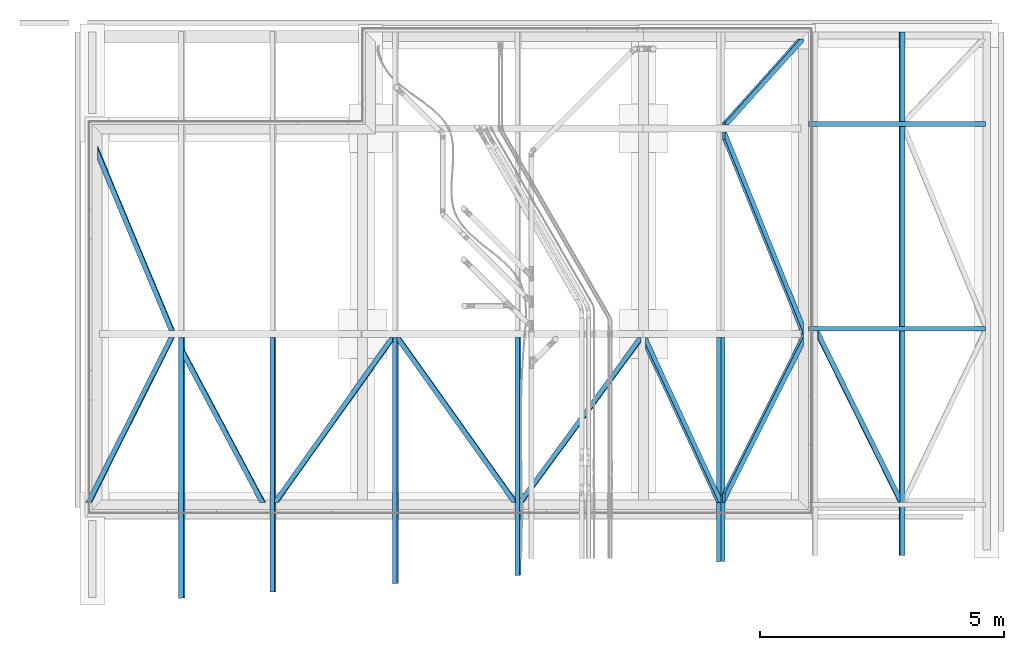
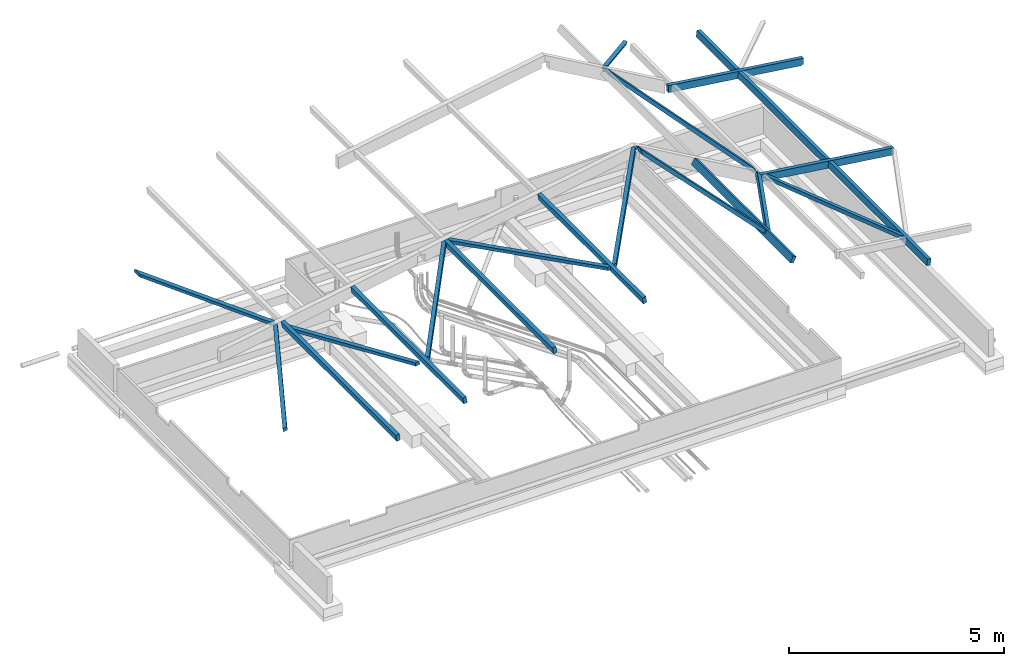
# One storey, part 2 of 18: 12 beams, 9 members.
"""IFC4 building model written with IfcOpenShell, lengths in centimetres."""

from ifc_helpers import new_model, entity, si_unit, converted_unit, derived_unit, direction, frame, origin, place, context, subcontext, project, spatial, indexed_curve, outline, extrude, polygons, source, transform, mapped, material, type_object, type_shapes, element, save


model = new_model("IFC4")

# Units and contexts
model_context = context("Model", 3, precision=0.001, world=origin(), true_north=direction((6.123233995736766e-17, 1.0)))
body_context = subcontext(model_context, "Body", "Model", "MODEL_VIEW")
ifc_project = project(units=[si_unit("LENGTHUNIT", "METRE", prefix="CENTI"), si_unit("AREAUNIT", "SQUARE_METRE"), converted_unit("PLANEANGLEUNIT", "DEGREE", entity("IfcPlaneAngleMeasure", 0.017453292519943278), si_unit("PLANEANGLEUNIT", "RADIAN"), dimensions=[0, 0, 0, 0, 0, 0, 0]), si_unit("VOLUMEUNIT", "CUBIC_METRE"), derived_unit("THERMALTRANSMITTANCEUNIT", [(si_unit("MASSUNIT", "GRAM", prefix="KILO"), 1), (si_unit("THERMODYNAMICTEMPERATUREUNIT", "KELVIN"), -1), (si_unit("TIMEUNIT", "SECOND"), -3)])], contexts=[model_context])

# Site, building, storey
site_placement = place(None, frame((-0.003347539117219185, 0.0, 0.0)))
site = spatial("IfcSite", under=ifc_project, at=site_placement, Name="Default", CompositionType="ELEMENT")
building_placement = place(site_placement, origin())
building = spatial("IfcBuilding", under=site, at=building_placement, CompositionType="ELEMENT")
storey_placement = place(building_placement, frame((0.0, 0.0, -30.0)))
storey = spatial("IfcBuildingStorey", under=building, at=storey_placement, Name="Fondation B.O.", CompositionType="ELEMENT", Elevation=-30.0)

# Beam
ifc_material_1 = material(Name="BLC - GL24h", Category="Bois")
beam_type_1 = type_object("IfcBeamType", Name="Poutre - Lamellé-collé:10x18", PredefinedType="BEAM", material=ifc_material_1)
shared_shape_1 = source(origin(), body_context, "Body", "Tessellation", [
    polygons([(17.639249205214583, 460.3035868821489, 15.606250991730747), (8.670139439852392, 460.3035868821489, 3.979039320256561e-13), (2.7284841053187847e-12, 460.3035868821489, 4.982838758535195), (8.96910976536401, 460.3035868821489, 20.589089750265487), (8.670139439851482, 0.5879283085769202, 0.0), (17.639249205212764, 1.196130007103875, 15.606250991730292), (9.094947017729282e-13, -4.547473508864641e-13, 4.982838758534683), (8.9691097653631, 0.6082016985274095, 20.589089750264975)], [[[1, 2, 3, 4]], [[5, 2, 1, 6]], [[7, 3, 2, 5]], [[8, 4, 3, 7]], [[6, 1, 4, 8]], [[6, 8, 7, 5]]], closed=True),
])
type_shapes(beam_type_1, [shared_shape_1])
beam_1_placement = place(storey_placement, frame((-5508.288411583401, -2780.1849936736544, 469.95446520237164)))
element("IfcBeam", 1, at=beam_1_placement, inside=storey, type_object=beam_type_1, material=ifc_material_1, Name="Poutre - Lamellé-collé:10x18", ObjectType="Poutre - Lamellé-collé:10x18", PredefinedType="BEAM", context=body_context, shape_type="MappedRepresentation", body=[
    mapped(shared_shape_1, transform((0.0, 0.0, 0.0), scale=1.0)),
])

# Members
member_type_1 = type_object("IfcMemberType", Name="Poutre - Lamellé-collé:10x18", PredefinedType="PURLIN", material=ifc_material_1)
shared_shape_2 = source(origin(), body_context, "Body", "Tessellation", [
    polygons([(9.094947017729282e-13, 488.3175266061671, -1.7265254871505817), (9.849827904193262, 488.3175266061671, -1.1368683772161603e-13), (12.957573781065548, 488.3175266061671, -17.72969022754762), (3.107745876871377, 488.3175266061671, -19.45621571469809), (0.0, -4.547473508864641e-13, -1.726525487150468), (9.849827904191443, 0.667923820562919, 0.0), (12.95757378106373, 0.8786622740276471, -17.729690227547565), (3.1077458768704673, 0.21073845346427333, -19.456215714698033)], [[[1, 2, 3, 4]], [[2, 1, 5, 6]], [[3, 2, 6, 7]], [[4, 3, 7, 8]], [[1, 4, 8, 5]], [[6, 5, 8, 7]]], closed=True),
])
type_shapes(member_type_1, [shared_shape_2])
member_1_placement = place(storey_placement, frame((-5921.649265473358, -2808.2152865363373, 537.4808931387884)))
element("IfcMember", 2, at=member_1_placement, inside=storey, type_object=member_type_1, material=ifc_material_1, Name="Poutre - Lamellé-collé:10x18", ObjectType="Poutre - Lamellé-collé:10x18", PredefinedType="PURLIN", context=body_context, shape_type="MappedRepresentation", body=[
    mapped(shared_shape_2, transform((0.0, 0.0, 0.0), scale=1.0)),
])
member_type_2 = type_object("IfcMemberType", Name="Poutre - Lamellé-collé:10x18", PredefinedType="PURLIN", material=ifc_material_1)
shared_shape_3 = source(origin(), body_context, "Body", "Tessellation", [
    polygons([(9.094947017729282e-13, 505.28699247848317, -1.7265254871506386), (9.849827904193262, 505.28699247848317, -1.7053025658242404e-13), (12.957573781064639, 505.28699247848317, -17.72969022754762), (3.107745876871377, 505.28699247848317, -19.45621571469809), (0.0, 4.547473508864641e-13, -1.726525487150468), (9.849827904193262, 0.6679238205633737, 0.0), (12.95757378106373, 0.8786622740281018, -17.729690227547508), (3.107745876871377, 0.21073845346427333, -19.456215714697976)], [[[1, 2, 3, 4]], [[2, 1, 5, 6]], [[3, 2, 6, 7]], [[4, 3, 7, 8]], [[1, 4, 8, 5]], [[6, 5, 8, 7]]], closed=True),
])
type_shapes(member_type_2, [shared_shape_3])
member_2_placement = place(storey_placement, frame((-6172.820398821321, -2825.2473793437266, 493.4544017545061)))
element("IfcMember", 3, at=member_2_placement, inside=storey, type_object=member_type_2, material=ifc_material_1, Name="Poutre - Lamellé-collé:10x18", ObjectType="Poutre - Lamellé-collé:10x18", PredefinedType="PURLIN", context=body_context, shape_type="MappedRepresentation", body=[
    mapped(shared_shape_3, transform((0.0, 0.0, 0.0), scale=1.0)),
])
member_type_3 = type_object("IfcMemberType", Name="Poutre - Lamellé-collé:10x18", PredefinedType="PURLIN", material=ifc_material_1)
shared_shape_4 = source(origin(), body_context, "Body", "Tessellation", [
    polygons([(9.094947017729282e-13, 522.3980492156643, -1.7265254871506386), (9.849827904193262, 522.3980492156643, -1.7053025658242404e-13), (12.957573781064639, 522.3980492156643, -17.729690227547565), (3.107745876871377, 522.3980492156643, -19.456215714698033), (0.0, 0.0, -1.726525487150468), (9.849827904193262, 0.6679238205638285, 0.0), (12.95757378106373, 0.8786622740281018, -17.729690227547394), (3.107745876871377, 0.21073845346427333, -19.456215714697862)], [[[1, 2, 3, 4]], [[2, 1, 5, 6]], [[3, 2, 6, 7]], [[4, 3, 7, 8]], [[1, 4, 8, 5]], [[6, 5, 8, 7]]], closed=True),
])
type_shapes(member_type_3, [shared_shape_4])
member_3_placement = place(storey_placement, frame((-6423.991923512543, -2842.2794986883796, 449.4278417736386)))
element("IfcMember", 4, at=member_3_placement, inside=storey, type_object=member_type_3, material=ifc_material_1, Name="Poutre - Lamellé-collé:10x18", ObjectType="Poutre - Lamellé-collé:10x18", PredefinedType="PURLIN", context=body_context, shape_type="MappedRepresentation", body=[
    mapped(shared_shape_4, transform((0.0, 0.0, 0.0), scale=1.0)),
])
member_type_4 = type_object("IfcMemberType", Name="Poutre - Lamellé-collé:10x18", PredefinedType="PURLIN", material=ifc_material_1)
shared_shape_5 = source(origin(), body_context, "Body", "Tessellation", [
    polygons([(9.094947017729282e-13, 535.0465405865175, -1.7265254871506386), (9.849827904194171, 535.0465405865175, -1.7053025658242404e-13), (12.957573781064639, 535.0465405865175, -17.729690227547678), (3.1077458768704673, 535.0465405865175, -19.456215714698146), (9.094947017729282e-13, 4.547473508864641e-13, -1.726525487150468), (9.849827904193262, 0.6679238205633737, 0.0), (12.95757378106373, 0.8786622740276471, -17.72969022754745), (3.1077458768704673, 0.21073845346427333, -19.45621571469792)], [[[1, 2, 3, 4]], [[2, 1, 5, 6]], [[3, 2, 6, 7]], [[4, 3, 7, 8]], [[1, 4, 8, 5]], [[6, 5, 8, 7]]], closed=True),
])
type_shapes(member_type_4, [shared_shape_5])
member_4_placement = place(storey_placement, frame((-6611.135647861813, -2854.9698474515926, 416.6243843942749)))
element("IfcMember", 5, at=member_4_placement, inside=storey, type_object=member_type_4, material=ifc_material_1, Name="Poutre - Lamellé-collé:10x18", ObjectType="Poutre - Lamellé-collé:10x18", PredefinedType="PURLIN", context=body_context, shape_type="MappedRepresentation", body=[
    mapped(shared_shape_5, transform((0.0, 0.0, 0.0), scale=1.0)),
])

# Beams
ifc_material_2 = material(Name="BM - C24", Category="Bois")
beam_type_2 = type_object("IfcBeamType", Name="Poutre - Lamellé-collé:10x10", PredefinedType="BEAM", material=ifc_material_2)
shared_shape_6 = source(origin(), body_context, "Body", "Tessellation", [
    polygons([(158.70810860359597, 175.99999999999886, -88.34785623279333), (153.72526984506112, 175.99999999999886, -97.0179956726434), (9.094947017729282e-13, 4.77926182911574, -8.670139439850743), (4.982838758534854, 4.77926182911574, -1.7053025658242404e-13), (165.54534867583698, 175.26368573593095, -103.81114442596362), (8.190242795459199, 2.2737367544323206e-13, -13.377175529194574), (9.094947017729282e-13, 6.821210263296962e-13, -8.670139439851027), (165.5453486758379, 175.99999999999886, -103.81114442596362), (165.54534867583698, 169.85012428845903, -92.56071619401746), (166.03848493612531, 170.2630103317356, -92.5607161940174), (13.173081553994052, 2.2737367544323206e-13, -4.707036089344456), (166.03848493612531, 175.99999999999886, -92.56071619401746), (4.982838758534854, 6.821210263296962e-13, -2.8421709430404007e-13), (165.5453486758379, 175.99999999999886, -92.56071619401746)], [[[1, 2, 3, 4]], [[5, 6, 7, 3, 2, 8]], [[6, 5, 9, 10, 11]], [[11, 10, 12, 1, 4, 13]], [[2, 1, 12, 14, 8]], [[6, 11, 13, 7]], [[9, 14, 12, 10]], [[14, 9, 5, 8]], [[4, 3, 7, 13]]], closed=True),
])
type_shapes(beam_type_2, [shared_shape_6])
beam_2_placement = place(storey_placement, frame((-5495.632001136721, -1883.87588491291, 485.5607161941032)))
element("IfcBeam", 6, at=beam_2_placement, inside=storey, type_object=beam_type_2, material=ifc_material_2, Name="Poutre - Lamellé-collé:10x10", ObjectType="Poutre - Lamellé-collé:10x10", PredefinedType="BEAM", context=body_context, shape_type="MappedRepresentation", body=[
    mapped(shared_shape_6, transform((0.0, 0.0, 0.0), scale=1.0)),
])
beam_type_3 = type_object("IfcBeamType", Name="Poutre - Lamellé-collé:10x10", PredefinedType="BEAM", material=ifc_material_2)
shared_shape_7 = source(origin(), body_context, "Body", "Tessellation", [
    polygons([(171.83357190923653, 12.021906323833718, -96.17463759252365), (172.32670816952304, 11.105009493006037, -96.17463759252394), (11.271061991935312, 409.46647785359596, -3.613921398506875), (6.288223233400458, 409.46647785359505, -12.284060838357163), (171.83357190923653, 0.0, -107.42506582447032), (9.56644041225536, 425.02002037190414, -14.168093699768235), (171.83357190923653, 23.662015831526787, -107.42506582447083), (6.288223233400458, 424.9735628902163, -12.284060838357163), (0.0187825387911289, 424.97356289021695, -8.680934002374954), (0.0, 425.02002037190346, -8.670139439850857), (172.32670816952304, 34.767025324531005, -96.17463759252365), (14.549279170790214, 425.02002037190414, -5.497954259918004), (4.982838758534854, 425.02002037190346, -3.410605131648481e-13), (5.001621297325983, 424.97356289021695, -0.010794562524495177), (11.271061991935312, 424.9735628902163, -3.6139213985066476), (171.83357190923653, 35.68392215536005, -96.17463759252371)], [[[1, 2, 3, 4, 5]], [[6, 7, 5, 4, 8, 9, 10]], [[11, 12, 13, 14, 15, 3, 2]], [[12, 11, 16, 7, 6]], [[13, 10, 9, 14]], [[13, 12, 6, 10]], [[1, 16, 11, 2]], [[16, 1, 5, 7]], [[8, 15, 14, 9]], [[15, 8, 4, 3]]], closed=True),
])
type_shapes(beam_type_3, [shared_shape_7])
beam_3_placement = place(storey_placement, frame((-5501.920224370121, -2322.8959052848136, 489.17463759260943)))
element("IfcBeam", 7, at=beam_3_placement, inside=storey, type_object=beam_type_3, material=ifc_material_2, Name="Poutre - Lamellé-collé:10x10", ObjectType="Poutre - Lamellé-collé:10x10", PredefinedType="BEAM", context=body_context, shape_type="MappedRepresentation", body=[
    mapped(shared_shape_7, transform((0.0, 0.0, 0.0), scale=1.0)),
])
beam_type_4 = type_object("IfcBeamType", Name="Poutre - Lamellé-collé:10x10", PredefinedType="BEAM", material=ifc_material_2)
shared_shape_8 = source(origin(), body_context, "Body", "Tessellation", [
    polygons([(166.03848493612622, 340.5682516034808, -92.56071619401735), (165.54534867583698, 339.8277028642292, -92.56071619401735), (165.54534867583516, 349.53741858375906, -103.81114442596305), (-9.094947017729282e-13, 18.824219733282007, -8.670139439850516), (4.982838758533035, 18.824219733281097, -1.1368683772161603e-13), (0.5885611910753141, -4.547473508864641e-13, -9.008392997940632), (5.571399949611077, -4.547473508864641e-13, -0.33825355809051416), (4.982838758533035, -4.547473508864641e-13, -3.979039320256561e-13), (-9.094947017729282e-13, -4.547473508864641e-13, -8.670139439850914), (166.0384849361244, 320.5682516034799, -92.56071619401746), (165.54534867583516, 329.5374185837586, -103.81114442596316), (165.54534867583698, 319.82770286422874, -92.56071619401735)], [[[1, 2, 3, 4, 5]], [[6, 7, 8, 9]], [[7, 10, 1, 5, 8]], [[7, 6, 11, 12, 10]], [[11, 6, 9, 4, 3]], [[12, 2, 1, 10]], [[2, 12, 11, 3]], [[5, 4, 9, 8]]], closed=True),
])
type_shapes(beam_type_4, [shared_shape_8])
beam_4_placement = place(storey_placement, frame((-5495.632001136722, -2657.875884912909, 485.56071619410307)))
element("IfcBeam", 8, at=beam_4_placement, inside=storey, type_object=beam_type_4, material=ifc_material_2, Name="Poutre - Lamellé-collé:10x10", ObjectType="Poutre - Lamellé-collé:10x10", PredefinedType="BEAM", context=body_context, shape_type="MappedRepresentation", body=[
    mapped(shared_shape_8, transform((0.0, 0.0, 0.0), scale=1.0)),
])
beam_type_5 = type_object("IfcBeamType", Name="Poutre - Lamellé-collé:10x10", PredefinedType="BEAM", material=ifc_material_2)
shared_shape_9 = source(origin(), body_context, "Body", "Tessellation", [
    polygons([(156.23313282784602, 12.132817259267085, -98.45929623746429), (7.230301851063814, 334.0518207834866, -12.8254853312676), (7.230301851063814, 337.9590809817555, -8.639310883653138), (5.421794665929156, 337.9590809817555, -11.78611338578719), (5.402854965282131, 338.0000000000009, -11.775228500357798), (10.385693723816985, 338.0000000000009, -3.10508906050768), (161.21597158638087, 12.13281725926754, -89.789156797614), (9.094947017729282e-13, 337.9590809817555, -8.670139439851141), (0.06645527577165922, 338.0000000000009, -8.708332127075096), (157.00346501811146, 4.547473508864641e-13, -87.36817601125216), (152.0206262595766, 4.547473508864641e-13, -96.03831545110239), (156.23313282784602, 4.547473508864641e-13, -98.45929623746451), (161.21597158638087, 4.547473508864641e-13, -89.78915679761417), (4.982838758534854, 337.9590809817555, -1.0231815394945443e-12), (5.049294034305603, 338.0000000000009, -0.03819268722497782), (7.230301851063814, 337.9590809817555, -1.2916454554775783), (7.2303018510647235, 323.5832978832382, -1.291645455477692), (7.2303018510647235, 312.81792867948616, -12.825485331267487)], [[[1, 2, 3, 4, 5, 6, 7]], [[4, 8, 9, 5]], [[10, 11, 12, 13]], [[8, 14, 15, 9]], [[10, 13, 7, 6, 15, 14, 16, 17]], [[12, 11, 18, 2, 1]], [[11, 10, 17, 18]], [[7, 13, 12, 1]], [[3, 16, 14, 8, 4]], [[16, 3, 2, 18, 17]], [[6, 5, 9, 15]]], closed=True),
])
type_shapes(beam_type_5, [shared_shape_9])
beam_5_placement = place(storey_placement, frame((-5660.535273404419, -2657.87588491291, 580.3327117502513)))
element("IfcBeam", 9, at=beam_5_placement, inside=storey, type_object=beam_type_5, material=ifc_material_2, Name="Poutre - Lamellé-collé:10x10", ObjectType="Poutre - Lamellé-collé:10x10", PredefinedType="BEAM", context=body_context, shape_type="MappedRepresentation", body=[
    mapped(shared_shape_9, transform((0.0, 0.0, 0.0), scale=1.0)),
])
beam_type_6 = type_object("IfcBeamType", Name="Poutre - Lamellé-collé:10x10", PredefinedType="BEAM", material=ifc_material_2)
shared_shape_10 = source(origin(), body_context, "Body", "Tessellation", [
    polygons([(252.45525330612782, 337.9590809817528, 43.94894440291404), (252.4010468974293, 337.99999999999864, 43.93944284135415), (250.67452141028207, 337.99999999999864, 53.78927074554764), (250.7287278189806, 337.95908098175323, 53.79877230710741), (6.944088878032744, 0.0, 11.067021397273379), (8.670614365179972, 0.0, 1.217193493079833), (248.4944660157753, 327.46170469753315, 43.25467844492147), (248.4944660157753, 329.81914735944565, 53.40714008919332), (248.4944660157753, 337.95908098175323, 43.25467844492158), (1.726525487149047, 0.0, 1.1368683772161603e-13), (1.726525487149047, 7.2778735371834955, 2.2737367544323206e-13), (243.9382194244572, 337.9999999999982, 42.45603749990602), (242.21169393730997, 337.9999999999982, 52.30586540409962), (0.0, 7.277873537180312, 9.849827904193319), (-9.094947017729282e-13, 0.0, 9.849827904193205), (248.4944660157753, 337.95908098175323, 53.40714008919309)], [[[1, 2, 3, 4]], [[5, 6, 7, 8]], [[2, 1, 9, 7, 6, 10, 11, 12]], [[13, 12, 11, 14]], [[4, 3, 13, 14, 15, 5, 8, 16]], [[6, 5, 15, 10]], [[3, 2, 12, 13]], [[16, 9, 1, 4]], [[9, 16, 8, 7]], [[11, 10, 15, 14]]], closed=True),
])
type_shapes(beam_type_6, [shared_shape_10])
beam_6_placement = place(storey_placement, frame((-5911.7994375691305, -2657.8758849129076, 527.6310652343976)))
element("IfcBeam", 10, at=beam_6_placement, inside=storey, type_object=beam_type_6, material=ifc_material_2, Name="Poutre - Lamellé-collé:10x10", ObjectType="Poutre - Lamellé-collé:10x10", PredefinedType="BEAM", context=body_context, shape_type="MappedRepresentation", body=[
    mapped(shared_shape_10, transform((0.0, 0.0, 0.0), scale=1.0)),
])

# Members
member_type_5 = type_object("IfcMemberType", Name="Poutre - Lamellé-collé:10x10", PredefinedType="BRACE", material=ifc_material_2)
shared_shape_11 = source(origin(), body_context, "Body", "Tessellation", [
    polygons([(166.93928402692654, 4.547473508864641e-13, 39.111753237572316), (155.75312088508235, 4.547473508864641e-13, 37.150988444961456), (157.4796463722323, 4.547473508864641e-13, 27.30116054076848), (168.6658095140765, 4.547473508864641e-13, 29.261925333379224), (0.0, 293.7633138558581, 9.849827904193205), (1.726525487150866, 293.7633138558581, 1.7053025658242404e-13), (9.094947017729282e-13, 314.8613460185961, 9.849827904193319), (1.726525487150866, 314.86134601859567, 2.8421709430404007e-13)], [[[1, 2, 3, 4]], [[3, 2, 5, 6]], [[2, 1, 7, 5]], [[1, 4, 8, 7]], [[4, 3, 6, 8]], [[5, 7, 8, 6]]], closed=True),
])
type_shapes(member_type_5, [shared_shape_11])
member_5_placement = place(storey_placement, frame((-6601.2858199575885, -2657.8758849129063, 406.7745564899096)))
element("IfcMember", 11, at=member_5_placement, inside=storey, type_object=member_type_5, material=ifc_material_2, Name="Poutre - Lamellé-collé:10x10", ObjectType="Poutre - Lamellé-collé:10x10", PredefinedType="BRACE", context=body_context, shape_type="MappedRepresentation", body=[
    mapped(shared_shape_11, transform((0.0, 0.0, 0.0), scale=1.0)),
])
member_type_6 = type_object("IfcMemberType", Name="Poutre - Lamellé-collé:10x10", PredefinedType="BRACE", material=ifc_material_2)
shared_shape_12 = source(origin(), body_context, "Body", "Tessellation", [
    polygons([(180.59494155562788, 337.8144497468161, 41.50538295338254), (182.32146704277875, 337.8144497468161, 31.655555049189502), (181.9627728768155, 337.9999999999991, 31.592681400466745), (180.23624738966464, 337.9999999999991, 41.442509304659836), (11.05472029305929, 0.0, 11.787552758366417), (12.781245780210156, 0.0, 1.9377248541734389), (1.7265254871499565, 0.0, 0.0), (171.35986956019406, 338.0, 29.734153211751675), (-9.094947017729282e-13, 0.0, 9.849827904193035), (169.6333440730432, 337.99999999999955, 39.58398111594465)], [[[1, 2, 3, 4]], [[2, 1, 5, 6]], [[2, 6, 7, 8, 3]], [[7, 9, 10, 8]], [[5, 1, 4, 10, 9]], [[5, 9, 7, 6]], [[4, 3, 8, 10]]], closed=True),
])
type_shapes(member_type_6, [shared_shape_12])
member_6_placement = place(storey_placement, frame((-6801.532217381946, -2657.875884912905, 371.67439918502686)))
element("IfcMember", 12, at=member_6_placement, inside=storey, type_object=member_type_6, material=ifc_material_2, Name="Poutre - Lamellé-collé:10x10", ObjectType="Poutre - Lamellé-collé:10x10", PredefinedType="BRACE", context=body_context, shape_type="MappedRepresentation", body=[
    mapped(shared_shape_12, transform((0.0, 0.0, 0.0), scale=1.0)),
])

# Beams
beam_type_7 = type_object("IfcBeamType", Name="Poutre - Lamellé-collé:10x10", PredefinedType="BEAM", material=ifc_material_2)
shared_shape_13 = source(origin(), body_context, "Body", "Tessellation", [
    polygons([(-9.094947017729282e-13, 377.0668210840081, 10.152461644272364), (-9.094947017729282e-13, 351.47377443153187, 10.152461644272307), (146.95132178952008, 9.094947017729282e-13, 35.91080025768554), (157.651784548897, 4.547473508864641e-13, 37.78642913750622), (-9.094947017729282e-13, 381.1962730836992, 2.8421709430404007e-13), (159.3783100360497, 4.547473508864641e-13, 27.93660123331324), (-9.094947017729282e-13, 355.60322643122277, 1.7053025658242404e-13), (148.67784727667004, 9.094947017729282e-13, 26.060972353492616)], [[[1, 2, 3, 4]], [[5, 1, 4, 6]], [[7, 5, 6, 8]], [[2, 7, 8, 3]], [[2, 1, 5, 7]], [[4, 3, 8, 6]]], closed=True),
])
type_shapes(beam_type_7, [shared_shape_13])
beam_7_placement = place(storey_placement, frame((-6778.086652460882, -2305.8758849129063, 375.48141749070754)))
element("IfcBeam", 13, at=beam_7_placement, inside=storey, type_object=beam_type_7, material=ifc_material_2, Name="Poutre - Lamellé-collé:10x10", ObjectType="Poutre - Lamellé-collé:10x10", PredefinedType="BEAM", context=body_context, shape_type="MappedRepresentation", body=[
    mapped(shared_shape_13, transform((0.0, 0.0, 0.0), scale=1.0)),
])
beam_type_8 = type_object("IfcBeamType", Name="Poutre - Lamellé-collé:10x10", PredefinedType="BEAM", material=ifc_material_2)
shared_shape_14 = source(origin(), body_context, "Body", "Tessellation", [
    polygons([(1.8416890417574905, 338.0000000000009, 0.020186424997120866), (1.726525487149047, 337.91549804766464, 2.2737367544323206e-13), (1.8189894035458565e-12, 337.91549804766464, 9.84982790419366), (0.11516355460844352, 338.0000000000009, 9.870014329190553), (1.587187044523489, 329.4979598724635, 10.128037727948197), (236.15136954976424, 0.0, 51.24358242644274), (242.90849248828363, 0.0, 52.42800362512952), (242.90849248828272, 7.579806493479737, 52.428003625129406), (7.687787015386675, 338.0000000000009, 11.197380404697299), (1.587187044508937, 337.9154980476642, 10.128037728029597), (9.414312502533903, 338.0000000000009, 1.3475525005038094), (244.63501797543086, 7.579806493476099, 42.578175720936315), (237.87789503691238, 0.0, 41.39375452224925), (3.313712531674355, 329.49795987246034, 0.2782098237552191), (3.3137125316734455, 337.9154980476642, 0.278209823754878), (244.63501797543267, 0.0, 42.57817572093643)], [[[1, 2, 3, 4]], [[5, 6, 7, 8, 9, 4, 3, 10]], [[11, 9, 8, 12]], [[13, 14, 15, 2, 1, 11, 12, 16]], [[13, 6, 5, 14]], [[6, 13, 16, 7]], [[15, 10, 3, 2]], [[10, 15, 14, 5]], [[1, 4, 9, 11]], [[8, 7, 16, 12]]], closed=True),
])
type_shapes(beam_type_8, [shared_shape_14])
beam_8_placement = place(storey_placement, frame((-6164.557757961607, -2657.8758849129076, 483.3263640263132)))
element("IfcBeam", 14, at=beam_8_placement, inside=storey, type_object=beam_type_8, material=ifc_material_2, Name="Poutre - Lamellé-collé:10x10", ObjectType="Poutre - Lamellé-collé:10x10", PredefinedType="BEAM", context=body_context, shape_type="MappedRepresentation", body=[
    mapped(shared_shape_14, transform((0.0, 0.0, 0.0), scale=1.0)),
])
beam_type_9 = type_object("IfcBeamType", Name="Poutre - Lamellé-collé:10x10", PredefinedType="BEAM", material=ifc_material_2)
shared_shape_15 = source(origin(), body_context, "Body", "Tessellation", [
    polygons([(244.7287777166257, 337.99999999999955, 42.59461038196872), (243.00225222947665, 337.99999999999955, 52.4444382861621), (243.1174097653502, 337.9154980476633, 52.464623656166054), (244.84393525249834, 337.9154980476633, 42.61479575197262), (6.676382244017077, -4.547473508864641e-13, 11.020096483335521), (8.402907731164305, -4.547473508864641e-13, 1.1702685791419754), (243.04822227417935, 329.59470166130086, 42.300034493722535), (241.3216967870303, 329.5947016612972, 52.149862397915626), (1.726525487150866, -4.547473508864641e-13, 5.684341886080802e-14), (1.726525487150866, 7.69312896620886, 0.0), (236.87884819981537, 337.99999999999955, 41.2186367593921), (243.04822227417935, 337.9154980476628, 42.30003449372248), (9.094947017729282e-13, 7.6931289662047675, 9.849827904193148), (235.15232271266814, 337.99999999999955, 51.068464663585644), (9.094947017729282e-13, 4.547473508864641e-13, 9.849827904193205), (241.32169678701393, 337.9154980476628, 52.149862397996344)], [[[1, 2, 3, 4]], [[5, 6, 7, 8]], [[6, 9, 10, 11, 1, 4, 12, 7]], [[11, 10, 13, 14]], [[15, 5, 8, 16, 3, 2, 14, 13]], [[6, 5, 15, 9]], [[10, 9, 15, 13]], [[2, 1, 11, 14]], [[16, 12, 4, 3]], [[12, 16, 8, 7]]], closed=True),
])
type_shapes(beam_type_9, [shared_shape_15])
beam_9_placement = place(storey_placement, frame((-6414.142095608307, -2657.8758849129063, 439.57801386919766)))
element("IfcBeam", 15, at=beam_9_placement, inside=storey, type_object=beam_type_9, material=ifc_material_2, Name="Poutre - Lamellé-collé:10x10", ObjectType="Poutre - Lamellé-collé:10x10", PredefinedType="BEAM", context=body_context, shape_type="MappedRepresentation", body=[
    mapped(shared_shape_15, transform((0.0, 0.0, 0.0), scale=1.0)),
])
beam_type_10 = type_object("IfcBeamType", Name="Poutre - Lamellé-collé:10x20", PredefinedType="BEAM", material=ifc_material_1)
shared_shape_16 = source(origin(), body_context, "Body", "SweptSolid", [
    extrude(outline(indexed_curve([(-243.8614628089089, -12.517621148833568), (122.1870567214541, -12.517621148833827), (124.49222117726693, 4.669685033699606), (119.0410312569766, 5.400799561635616), (119.32021302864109, 7.482378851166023), (-241.17905937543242, 7.482378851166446), (-243.8614628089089, -12.517621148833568)], self_intersect=False)), frame((-5078.853319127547, -1886.8758849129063, 295.1769839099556), z_axis=(0.0, 1.0, 0.0), x_axis=(0.9911254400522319, 0.0, -0.1329299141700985)), (0.0, 0.0, 1.0), 10.000000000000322),
])
type_shapes(beam_type_10, [shared_shape_16])
beam_10_placement = place(storey_placement, frame((0.0, 0.0, 30.0)))
element("IfcBeam", 16, at=beam_10_placement, inside=storey, type_object=beam_type_10, material=ifc_material_1, Name="Poutre - Lamellé-collé:10x20", ObjectType="Poutre - Lamellé-collé:10x20", PredefinedType="BEAM", context=body_context, shape_type="MappedRepresentation", body=[
    mapped(shared_shape_16, transform((0.0, 0.0, 0.0), scale=1.0)),
])
beam_type_11 = type_object("IfcBeamType", Name="Poutre - Lamellé-collé:10x20", PredefinedType="BEAM", material=ifc_material_1)
shared_shape_17 = source(origin(), body_context, "Body", "SweptSolid", [
    extrude(outline(indexed_curve([(-243.86146280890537, -12.51762114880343), (122.18705672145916, -12.517621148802), (124.49222117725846, 4.669685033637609), (119.04103125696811, 5.400799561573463), (119.32021302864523, 7.482378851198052), (-241.17905937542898, 7.482378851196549), (-243.86146280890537, -12.51762114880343)], self_intersect=False)), frame((-5078.853319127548, -2306.8758849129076, 295.1769839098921), z_axis=(0.0, 1.0, 0.0), x_axis=(0.9911254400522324, 0.0, -0.13292991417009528)), (0.0, 0.0, 1.0), 10.000000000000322),
])
type_shapes(beam_type_11, [shared_shape_17])
beam_11_placement = place(storey_placement, frame((0.0, 0.0, 30.0)))
element("IfcBeam", 17, at=beam_11_placement, inside=storey, type_object=beam_type_11, material=ifc_material_1, Name="Poutre - Lamellé-collé:10x20", ObjectType="Poutre - Lamellé-collé:10x20", PredefinedType="BEAM", context=body_context, shape_type="MappedRepresentation", body=[
    mapped(shared_shape_17, transform((0.0, 0.0, 0.0), scale=1.0)),
])

# Members
member_type_7 = type_object("IfcMemberType", Name="Poutre - Lamellé-collé:10x18", PredefinedType="PURLIN", material=ifc_material_1)
shared_shape_18 = source(origin(), body_context, "Body", "SweptSolid", [
    extrude(outline(indexed_curve([(-91.71366346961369, -5.000000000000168), (91.71366346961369, -5.000000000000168), (91.71366346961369, 5.000000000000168), (-91.71366346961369, 5.000000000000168), (-91.71366346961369, -5.000000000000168)], self_intersect=False)), frame((-5.83633653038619, 0.0, -9.0), z_axis=(0.0, 0.0, 1.0), x_axis=(-1.0, 0.0, 0.0)), (0.0, 0.0, 1.0), 17.999999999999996),
])
type_shapes(member_type_7, [shared_shape_18])
member_7_placement = place(storey_placement, frame((-5127.702176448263, -1790.9508849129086, 335.27771904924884), z_axis=(0.13292991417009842, 0.0, 0.991125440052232), x_axis=(0.0, -1.0, 0.0)))
element("IfcMember", 18, at=member_7_placement, inside=storey, type_object=member_type_7, material=ifc_material_1, Name="Poutre - Lamellé-collé:10x18", ObjectType="Poutre - Lamellé-collé:10x18", PredefinedType="PURLIN", context=body_context, shape_type="MappedRepresentation", body=[
    mapped(shared_shape_18, transform((0.0, 0.0, 0.0), scale=1.0)),
])
member_type_8 = type_object("IfcMemberType", Name="Poutre - Lamellé-collé:10x18", PredefinedType="PURLIN", material=ifc_material_1)
shared_shape_19 = source(origin(), body_context, "Body", "SweptSolid", [
    extrude(outline(indexed_curve([(-204.96580192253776, -5.000000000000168), (204.96580192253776, -5.000000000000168), (204.96580192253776, 5.000000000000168), (-204.96580192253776, 5.000000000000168), (-204.96580192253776, -5.000000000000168)], self_intersect=False)), frame((0.034198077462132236, 0.0, -9.0), z_axis=(0.0, 0.0, 1.0), x_axis=(-1.0, 0.0, 0.0)), (0.0, 0.0, 1.0), 17.999999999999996),
])
type_shapes(member_type_8, [shared_shape_19])
member_8_placement = place(storey_placement, frame((-5127.7021764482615, -2091.8758849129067, 335.2777190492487), z_axis=(0.13292991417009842, 0.0, 0.991125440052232), x_axis=(0.0, -1.0, 0.0)))
element("IfcMember", 19, at=member_8_placement, inside=storey, type_object=member_type_8, material=ifc_material_1, Name="Poutre - Lamellé-collé:10x18", ObjectType="Poutre - Lamellé-collé:10x18", PredefinedType="PURLIN", context=body_context, shape_type="MappedRepresentation", body=[
    mapped(shared_shape_19, transform((0.0, 0.0, 0.0), scale=1.0)),
])
member_type_9 = type_object("IfcMemberType", Name="Poutre - Lamellé-collé:10x18", PredefinedType="PURLIN", material=ifc_material_1)
shared_shape_20 = source(origin(), body_context, "Body", "SweptSolid", [
    extrude(outline(indexed_curve([(-230.05000000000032, -5.000000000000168), (230.0500000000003, -5.000000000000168), (230.05000000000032, 5.000000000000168), (-230.05000000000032, 5.000000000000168), (-230.05000000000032, -5.000000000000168)], self_intersect=False)), frame((2.499999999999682, 0.0, -9.0), z_axis=(0.0, 0.0, 1.0), x_axis=(-1.0, 0.0, 0.0)), (0.0, 0.0, 1.0), 17.999999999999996),
])
type_shapes(member_type_9, [shared_shape_20])
member_9_placement = place(storey_placement, frame((-5127.445310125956, -2534.4425692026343, 335.24326809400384), z_axis=(0.13292991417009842, 0.0, 0.991125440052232), x_axis=(0.0, -1.0, 0.0)))
element("IfcMember", 20, at=member_9_placement, inside=storey, type_object=member_type_9, material=ifc_material_1, Name="Poutre - Lamellé-collé:10x18", ObjectType="Poutre - Lamellé-collé:10x18", PredefinedType="PURLIN", context=body_context, shape_type="MappedRepresentation", body=[
    mapped(shared_shape_20, transform((0.0, 0.0, 0.0), scale=1.0)),
])

# Beam
beam_type_12 = type_object("IfcBeamType", Name="Poutre - Lamellé-collé:10x10", PredefinedType="BEAM", material=ifc_material_2)
shared_shape_21 = source(origin(), body_context, "Body", "Tessellation", [
    polygons([(9.350319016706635, 334.78300346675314, -1.0757805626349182), (174.9359204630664, 9.094947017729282e-13, -23.28414985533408), (177.99174352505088, 4.547473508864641e-13, -23.693997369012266), (177.99174352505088, 16.216996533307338, -23.693997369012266), (12.406142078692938, 351.0000000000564, -1.4856280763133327), (1.3292991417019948, 351.00000000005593, -1.7053025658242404e-13), (1.3744792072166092, 350.90865438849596, -0.006059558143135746), (9.350319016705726, 350.9086543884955, -1.0757805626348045), (11.076842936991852, 351.0000000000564, -11.396882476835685), (176.6624443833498, 16.216996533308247, -33.605251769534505), (173.6066213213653, 9.094947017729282e-13, -33.195404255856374), (8.02101987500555, 334.78300346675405, -10.987034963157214), (8.02101987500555, 350.9086543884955, -10.987034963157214), (0.04518006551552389, 350.9086543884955, -9.917313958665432), (1.8189894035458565e-12, 351.00000000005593, -9.911254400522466), (176.6624443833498, 4.547473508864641e-13, -33.605251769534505)], [[[1, 2, 3, 4, 5, 6, 7, 8]], [[9, 5, 4, 10]], [[11, 12, 13, 14, 15, 9, 10, 16]], [[7, 6, 15, 14]], [[2, 1, 12, 11]], [[13, 8, 7, 14]], [[8, 13, 12, 1]], [[6, 5, 9, 15]], [[2, 11, 16, 3]], [[4, 3, 16, 10]]], closed=True),
])
type_shapes(beam_type_12, [shared_shape_21])
beam_12_placement = place(storey_placement, frame((-5309.196311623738, -2657.8758849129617, 368.52204399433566)))
element("IfcBeam", 21, at=beam_12_placement, inside=storey, type_object=beam_type_12, material=ifc_material_2, Name="Poutre - Lamellé-collé:10x10", ObjectType="Poutre - Lamellé-collé:10x10", PredefinedType="BEAM", context=body_context, shape_type="MappedRepresentation", body=[
    mapped(shared_shape_21, transform((0.0, 0.0, 0.0), scale=1.0)),
])

save(model, "model.ifc")
